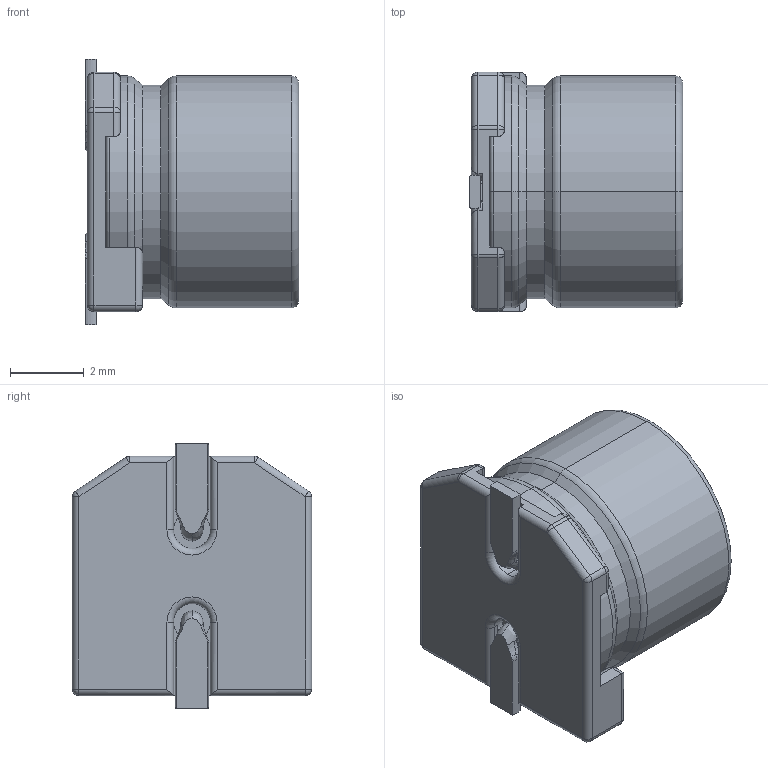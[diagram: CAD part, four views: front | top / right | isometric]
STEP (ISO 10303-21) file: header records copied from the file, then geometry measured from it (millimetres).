
FILE_DESCRIPTION((''),'2;1');
FILE_NAME('HYBRIDSMD63X58_ASM','2020-06-03T',('xy'),(''),'PRO/ENGINEER BY PARAMETRIC TECHNOLOGY CORPORATION, 2009380','PRO/ENGINEER BY PARAMETRIC TECHNOLOGY CORPORATION, 2009380','');
FILE_SCHEMA(('CONFIG_CONTROL_DESIGN'));
Length unit declared in the file: millimetre
Products named in the file (3): HYBRIDSMD63X58; ZB6-3A; HYBRIDSMD63X58_ASM
Assembly tree (2 placements, depth 2):
  HYBRIDSMD63X58_ASM
    HYBRIDSMD63X58
    ZB6-3A
Bounding box: 5.8 x 6.5 x 7.2 mm (x, y, z)
Volume: 181.2 mm3; surface area: 287.1 mm2
Topology: 2 solids, 2 shells, 553 faces, 1476 edges, 948 vertices
Faces by surface type: plane 419, cylinder 69, bspline 24, sphere 20, torus 17, cone 4
Entity records: 17913 total; most frequent: CARTESIAN_POINT 4147, ORIENTED_EDGE 2948, DIRECTION 2654, EDGE_CURVE 1474, VECTOR 1238, LINE 1238, VERTEX_POINT 948, AXIS2_PLACEMENT_3D 708
